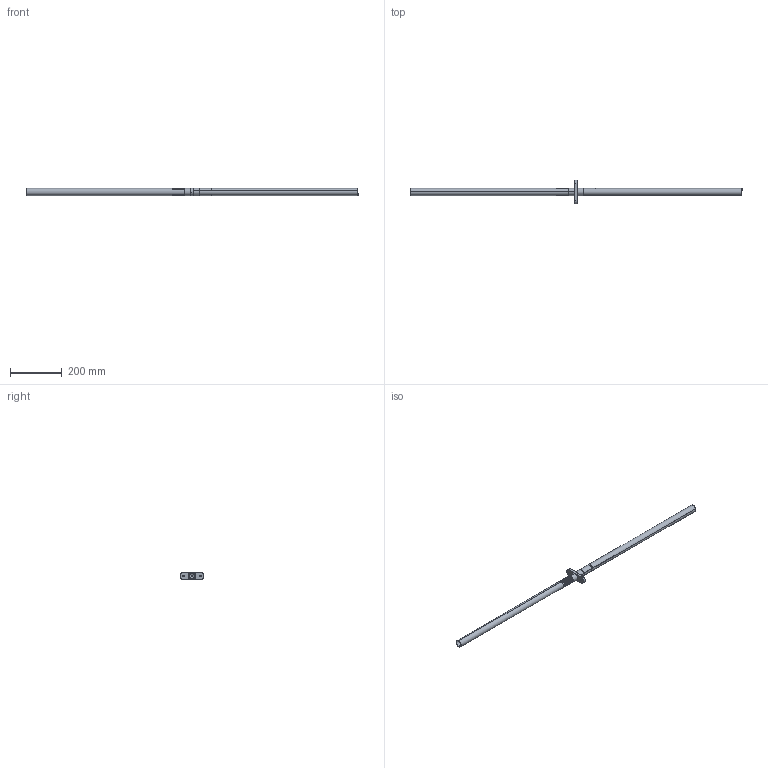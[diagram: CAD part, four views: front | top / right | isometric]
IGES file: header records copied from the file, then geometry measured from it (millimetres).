
Start section: SolidWorks IGES file using analytic representation for surfaces
Global section: file name: \\SERVER3\Design\_NEWDE~1\_DESIG~1\AAI\MODULA~1\SOLIDW~1\DEMONS~1\25DBF2~1.ASS\MODULA~1\235A3~1.COA\COAXIA~2\Threaded End Connector to Triple Link Connector to Threaded End Connector Connection.IGS; native system: SolidWorks 2013; preprocessor: SolidWorks 2013; author: tbraun; date: 130819.130646; units: inch
Bounding box: 1279.14 x 92.08 x 28.57 mm (x, y, z)
Surface area: 235157.5 mm2 (no closed solid volume)
Topology: 0 solids, 0 shells, 501 faces, 6547 edges, 6544 vertices
Faces by surface type: revolution 343, bspline 158
